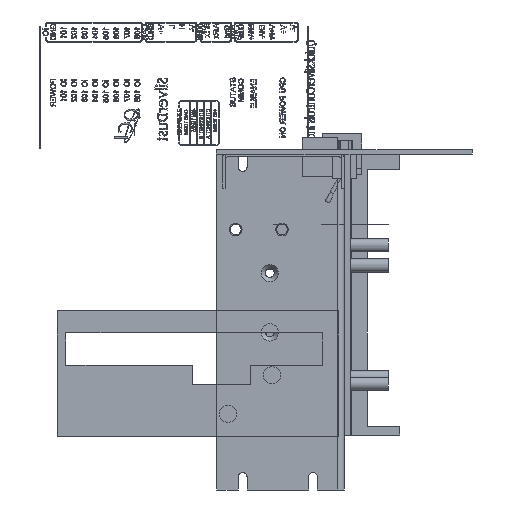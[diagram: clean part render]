
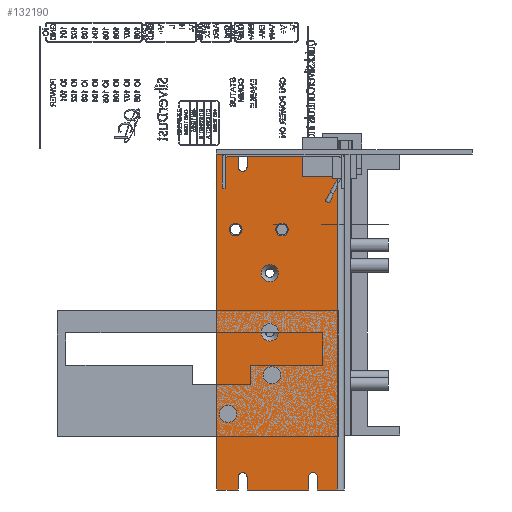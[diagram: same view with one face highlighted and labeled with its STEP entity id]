
A CAD part, left-side view. The second image highlights one B-rep face of the part: STEP entity #132190.
In plain terms, the highlighted planar face has unit normal (-1, 0, 0).
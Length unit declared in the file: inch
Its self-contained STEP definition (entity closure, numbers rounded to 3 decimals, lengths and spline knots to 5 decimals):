
#33710=VERTEX_POINT('',#299112);
#33712=VERTEX_POINT('',#299117);
#33714=VERTEX_POINT('',#299122);
#33716=VERTEX_POINT('',#299127);
#33717=VERTEX_POINT('',#299130);
#33718=VERTEX_POINT('',#299135);
#33719=VERTEX_POINT('',#299137);
#33720=VERTEX_POINT('',#299141);
#33721=VERTEX_POINT('',#299145);
#33722=VERTEX_POINT('',#299149);
#33723=VERTEX_POINT('',#299151);
#33724=VERTEX_POINT('',#299155);
#33725=VERTEX_POINT('',#299159);
#33726=VERTEX_POINT('',#299163);
#33727=VERTEX_POINT('',#299165);
#33728=VERTEX_POINT('',#299169);
#33729=VERTEX_POINT('',#299173);
#33730=VERTEX_POINT('',#299177);
#33731=VERTEX_POINT('',#299179);
#33732=VERTEX_POINT('',#299183);
#33733=VERTEX_POINT('',#299187);
#33734=VERTEX_POINT('',#299193);
#33739=VERTEX_POINT('',#299204);
#33740=VERTEX_POINT('',#299206);
#33741=VERTEX_POINT('',#299210);
#33746=VERTEX_POINT('',#299221);
#50680=EDGE_CURVE('',#33710,#33710,#193962,.T.);
#50682=EDGE_CURVE('',#33712,#33712,#193964,.T.);
#50684=EDGE_CURVE('',#33714,#33714,#193966,.T.);
#50686=EDGE_CURVE('',#33716,#33716,#193968,.T.);
#50687=EDGE_CURVE('',#33717,#33717,#193969,.T.);
#50689=EDGE_CURVE('',#33719,#33718,#193970,.T.);
#50691=EDGE_CURVE('',#33720,#33719,#161339,.T.);
#50694=EDGE_CURVE('',#33718,#33721,#161342,.T.);
#50696=EDGE_CURVE('',#33723,#33722,#193971,.T.);
#50698=EDGE_CURVE('',#33724,#33723,#161345,.T.);
#50701=EDGE_CURVE('',#33722,#33725,#161348,.T.);
#50703=EDGE_CURVE('',#33727,#33726,#193972,.T.);
#50705=EDGE_CURVE('',#33728,#33727,#161351,.T.);
#50708=EDGE_CURVE('',#33726,#33729,#161354,.T.);
#50710=EDGE_CURVE('',#33731,#33730,#193973,.T.);
#50712=EDGE_CURVE('',#33732,#33731,#161357,.T.);
#50715=EDGE_CURVE('',#33730,#33733,#161360,.T.);
#50716=EDGE_CURVE('',#33734,#33734,#193974,.T.);
#50722=EDGE_CURVE('',#33729,#33739,#161364,.T.);
#50723=EDGE_CURVE('',#33740,#33724,#161364,.T.);
#50725=EDGE_CURVE('',#33732,#33741,#161366,.T.);
#50731=EDGE_CURVE('',#33720,#33733,#161366,.T.);
#50732=EDGE_CURVE('',#33746,#33721,#161366,.T.);
#50733=EDGE_CURVE('',#33746,#33740,#161370,.T.);
#50734=EDGE_CURVE('',#33725,#33728,#161364,.T.);
#50735=EDGE_CURVE('',#33741,#33739,#161371,.T.);
#80019=ORIENTED_EDGE('',*,*,#50680,.T.);
#80020=ORIENTED_EDGE('',*,*,#50682,.T.);
#80021=ORIENTED_EDGE('',*,*,#50684,.T.);
#80022=ORIENTED_EDGE('',*,*,#50686,.T.);
#80023=ORIENTED_EDGE('',*,*,#50694,.T.);
#80024=ORIENTED_EDGE('',*,*,#50732,.F.);
#80025=ORIENTED_EDGE('',*,*,#50733,.T.);
#80026=ORIENTED_EDGE('',*,*,#50723,.T.);
#80027=ORIENTED_EDGE('',*,*,#50698,.T.);
#80028=ORIENTED_EDGE('',*,*,#50696,.T.);
#80029=ORIENTED_EDGE('',*,*,#50701,.T.);
#80030=ORIENTED_EDGE('',*,*,#50734,.T.);
#80031=ORIENTED_EDGE('',*,*,#50705,.T.);
#80032=ORIENTED_EDGE('',*,*,#50703,.T.);
#80033=ORIENTED_EDGE('',*,*,#50708,.T.);
#80034=ORIENTED_EDGE('',*,*,#50722,.T.);
#80035=ORIENTED_EDGE('',*,*,#50735,.F.);
#80036=ORIENTED_EDGE('',*,*,#50725,.F.);
#80037=ORIENTED_EDGE('',*,*,#50712,.T.);
#80038=ORIENTED_EDGE('',*,*,#50710,.T.);
#80039=ORIENTED_EDGE('',*,*,#50715,.T.);
#80040=ORIENTED_EDGE('',*,*,#50731,.F.);
#80041=ORIENTED_EDGE('',*,*,#50691,.T.);
#80042=ORIENTED_EDGE('',*,*,#50689,.T.);
#80043=ORIENTED_EDGE('',*,*,#50687,.T.);
#80044=ORIENTED_EDGE('',*,*,#50716,.T.);
#113045=EDGE_LOOP('',(#80019));
#113046=EDGE_LOOP('',(#80020));
#113047=EDGE_LOOP('',(#80021));
#113048=EDGE_LOOP('',(#80022));
#113049=EDGE_LOOP('',(#80023,#80024,#80025,#80026,#80027,#80028,#80029,#80030,
#80031,#80032,#80033,#80034,#80035,#80036,#80037,#80038,#80039,#80040,#80041,
#80042));
#113050=EDGE_LOOP('',(#80043));
#113051=EDGE_LOOP('',(#80044));
#122728=FACE_BOUND('',#113045,.T.);
#122729=FACE_BOUND('',#113046,.T.);
#122730=FACE_BOUND('',#113047,.T.);
#122731=FACE_BOUND('',#113048,.T.);
#122732=FACE_BOUND('',#113049,.T.);
#122733=FACE_BOUND('',#113050,.T.);
#122734=FACE_BOUND('',#113051,.T.);
#132190=ADVANCED_FACE('',(#122728,#122729,#122730,#122731,#122732,#122733,
#122734),#254910,.T.);
#161339=LINE('',#299140,#240464);
#161342=LINE('',#299146,#240467);
#161345=LINE('',#299154,#240470);
#161348=LINE('',#299160,#240473);
#161351=LINE('',#299168,#240476);
#161354=LINE('',#299174,#240479);
#161357=LINE('',#299182,#240482);
#161360=LINE('',#299188,#240485);
#161364=LINE('',#299205,#240489);
#161366=LINE('',#299209,#240491);
#161370=LINE('',#299222,#240495);
#161371=LINE('',#299223,#240496);
#193962=CIRCLE('',#226698,0.31115);
#193964=CIRCLE('',#226701,0.31115);
#193966=CIRCLE('',#226704,0.31115);
#193968=CIRCLE('',#226707,0.31115);
#193969=CIRCLE('',#226709,0.2286);
#193970=CIRCLE('',#226713,0.15875);
#193971=CIRCLE('',#226717,0.15875);
#193972=CIRCLE('',#226721,0.15875);
#193973=CIRCLE('',#226725,0.15875);
#193974=CIRCLE('',#226731,0.2286);
#226698=AXIS2_PLACEMENT_3D('',#299111,#428856,#428857);
#226701=AXIS2_PLACEMENT_3D('',#299116,#428862,#428863);
#226704=AXIS2_PLACEMENT_3D('',#299121,#428868,#428869);
#226707=AXIS2_PLACEMENT_3D('',#299126,#428874,#428875);
#226709=AXIS2_PLACEMENT_3D('',#299129,#428878,#428879);
#226713=AXIS2_PLACEMENT_3D('',#299136,#428887,#428888);
#226717=AXIS2_PLACEMENT_3D('',#299150,#428899,#428900);
#226721=AXIS2_PLACEMENT_3D('',#299164,#428911,#428912);
#226725=AXIS2_PLACEMENT_3D('',#299178,#428923,#428924);
#226731=AXIS2_PLACEMENT_3D('',#299192,#428938,#428939);
#226738=AXIS2_PLACEMENT_3D('',#299220,#428959,$);
#240464=VECTOR('',#428891,1.);
#240467=VECTOR('',#428895,1.);
#240470=VECTOR('',#428903,1.);
#240473=VECTOR('',#428907,1.);
#240476=VECTOR('',#428915,1.);
#240479=VECTOR('',#428919,1.);
#240482=VECTOR('',#428927,1.);
#240485=VECTOR('',#428931,1.);
#240489=VECTOR('',#428948,1.);
#240491=VECTOR('',#428951,1.);
#240495=VECTOR('',#428960,1.);
#240496=VECTOR('',#428961,1.);
#254910=PLANE('',#226738);
#299111=CARTESIAN_POINT('',(0.,2.70002,-4.3053));
#299112=CARTESIAN_POINT('',(0.,2.70002,-4.61645));
#299116=CARTESIAN_POINT('',(0.,2.70002,-6.4516));
#299117=CARTESIAN_POINT('',(0.,2.70002,-6.76275));
#299121=CARTESIAN_POINT('',(0.,2.61874,-7.99592));
#299122=CARTESIAN_POINT('',(0.,2.61874,-8.30707));
#299126=CARTESIAN_POINT('',(0.,4.20878,-9.39546));
#299127=CARTESIAN_POINT('',(0.,4.20878,-9.70661));
#299129=CARTESIAN_POINT('',(0.,2.25552,-2.7305));
#299130=CARTESIAN_POINT('',(0.,2.25552,-2.5019));
#299135=CARTESIAN_POINT('',(0.,3.83667,-0.47244));
#299136=CARTESIAN_POINT('',(0.,3.67792,-0.47244));
#299137=CARTESIAN_POINT('',(0.,3.51917,-0.47244));
#299140=CARTESIAN_POINT('',(0.,3.51917,-0.23622));
#299141=CARTESIAN_POINT('',(0.,3.51917,0.));
#299145=CARTESIAN_POINT('',(0.,3.83667,0.));
#299146=CARTESIAN_POINT('',(0.,3.83667,0.));
#299149=CARTESIAN_POINT('',(0.,3.51917,-11.67384));
#299150=CARTESIAN_POINT('',(0.,3.67792,-11.67384));
#299151=CARTESIAN_POINT('',(0.,3.83667,-11.67384));
#299154=CARTESIAN_POINT('',(0.,3.83667,-5.83692));
#299155=CARTESIAN_POINT('',(0.,3.83667,-12.14628));
#299159=CARTESIAN_POINT('',(0.,3.51917,-12.14628));
#299160=CARTESIAN_POINT('',(0.,3.51917,-6.07314));
#299163=CARTESIAN_POINT('',(0.,0.97917,-11.67384));
#299164=CARTESIAN_POINT('',(0.,1.13792,-11.67384));
#299165=CARTESIAN_POINT('',(0.,1.29667,-11.67384));
#299168=CARTESIAN_POINT('',(0.,1.29667,-5.83692));
#299169=CARTESIAN_POINT('',(0.,1.29667,-12.14628));
#299173=CARTESIAN_POINT('',(0.,0.97917,-12.14628));
#299174=CARTESIAN_POINT('',(0.,0.97917,-6.07314));
#299177=CARTESIAN_POINT('',(0.,1.29667,-0.47244));
#299178=CARTESIAN_POINT('',(0.,1.13792,-0.47244));
#299179=CARTESIAN_POINT('',(0.,0.97917,-0.47244));
#299182=CARTESIAN_POINT('',(0.,0.97917,-0.23622));
#299183=CARTESIAN_POINT('',(0.,0.97917,0.));
#299187=CARTESIAN_POINT('',(0.,1.29667,0.));
#299188=CARTESIAN_POINT('',(0.,1.29667,0.));
#299192=CARTESIAN_POINT('',(0.,3.92684,-2.7305));
#299193=CARTESIAN_POINT('',(0.,3.92684,-2.5019));
#299204=CARTESIAN_POINT('',(0.,0.254,-12.14628));
#299205=CARTESIAN_POINT('',(0.,4.61264,-12.14628));
#299206=CARTESIAN_POINT('',(0.,4.61264,-12.14628));
#299209=CARTESIAN_POINT('',(0.,4.61264,0.));
#299210=CARTESIAN_POINT('',(0.,0.254,0.));
#299220=CARTESIAN_POINT('',(0.,4.61264,0.));
#299221=CARTESIAN_POINT('',(0.,4.61264,0.));
#299222=CARTESIAN_POINT('',(0.,4.61264,0.));
#299223=CARTESIAN_POINT('',(0.,0.254,0.));
#428856=DIRECTION('',(1.,0.,0.));
#428857=DIRECTION('',(0.,0.,-0.311));
#428862=DIRECTION('',(1.,0.,0.));
#428863=DIRECTION('',(0.,0.,-0.311));
#428868=DIRECTION('',(1.,0.,0.));
#428869=DIRECTION('',(0.,0.,-0.311));
#428874=DIRECTION('',(1.,0.,0.));
#428875=DIRECTION('',(0.,0.,-0.311));
#428878=DIRECTION('',(1.,0.,0.));
#428879=DIRECTION('',(0.,0.,0.229));
#428887=DIRECTION('',(1.,0.,0.));
#428888=DIRECTION('',(0.,0.,0.159));
#428891=DIRECTION('',(0.,0.,-1.));
#428895=DIRECTION('',(0.,0.,1.));
#428899=DIRECTION('',(1.,0.,0.));
#428900=DIRECTION('',(0.,0.,0.159));
#428903=DIRECTION('',(0.,0.,1.));
#428907=DIRECTION('',(0.,0.,-1.));
#428911=DIRECTION('',(1.,0.,0.));
#428912=DIRECTION('',(0.,0.,0.159));
#428915=DIRECTION('',(0.,0.,1.));
#428919=DIRECTION('',(0.,0.,-1.));
#428923=DIRECTION('',(1.,0.,0.));
#428924=DIRECTION('',(0.,0.,0.159));
#428927=DIRECTION('',(0.,0.,-1.));
#428931=DIRECTION('',(0.,0.,1.));
#428938=DIRECTION('',(1.,0.,0.));
#428939=DIRECTION('',(0.,0.,0.229));
#428948=DIRECTION('',(0.,-1.,0.));
#428951=DIRECTION('',(0.,-1.,0.));
#428959=DIRECTION('',(-1.,0.,0.));
#428960=DIRECTION('',(0.,0.,-1.));
#428961=DIRECTION('',(0.,0.,-1.));
